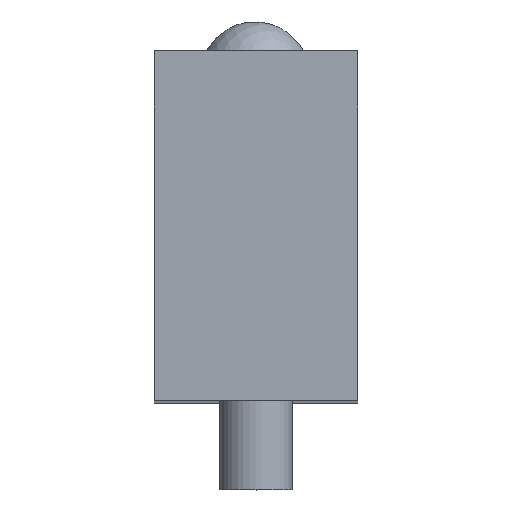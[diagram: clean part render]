
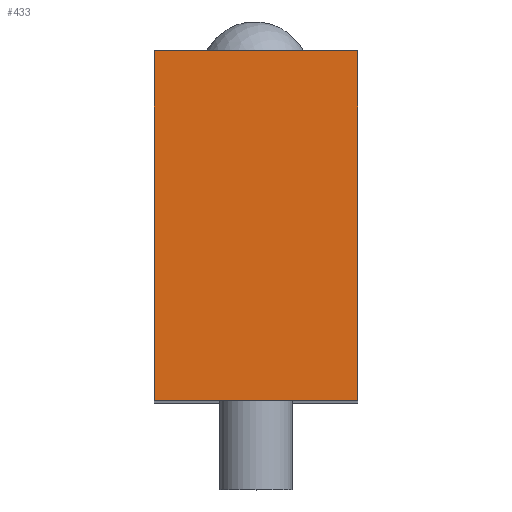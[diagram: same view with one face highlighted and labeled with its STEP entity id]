
A CAD part, top view. The second image highlights one B-rep face of the part: STEP entity #433.
In plain terms, the highlighted planar face has unit normal (0, 0, 1).
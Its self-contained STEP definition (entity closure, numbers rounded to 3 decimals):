
#30=LINE('',#721,#50);
#34=LINE('',#734,#54);
#41=LINE('',#755,#61);
#42=LINE('',#757,#62);
#50=VECTOR('',#603,10.);
#54=VECTOR('',#613,10.);
#61=VECTOR('',#638,10.);
#62=VECTOR('',#641,10.);
#108=FACE_OUTER_BOUND('',#146,.T.);
#146=EDGE_LOOP('',(#361,#362,#363,#364));
#202=VERTEX_POINT('',#718);
#203=VERTEX_POINT('',#720);
#208=VERTEX_POINT('',#731);
#209=VERTEX_POINT('',#733);
#246=EDGE_CURVE('',#203,#202,#30,.T.);
#252=EDGE_CURVE('',#209,#208,#34,.T.);
#263=EDGE_CURVE('',#202,#209,#41,.T.);
#264=EDGE_CURVE('',#208,#203,#42,.T.);
#361=ORIENTED_EDGE('',*,*,#252,.T.);
#362=ORIENTED_EDGE('',*,*,#264,.T.);
#363=ORIENTED_EDGE('',*,*,#246,.T.);
#364=ORIENTED_EDGE('',*,*,#263,.T.);
#378=PLANE('',#509);
#433=ADVANCED_FACE('',(#108),#378,.T.);
#509=AXIS2_PLACEMENT_3D('',#758,#642,#643);
#603=DIRECTION('',(-1.,0.,0.));
#613=DIRECTION('',(1.,0.,0.));
#638=DIRECTION('',(0.,-1.,0.));
#641=DIRECTION('',(0.,1.,0.));
#642=DIRECTION('center_axis',(0.,0.,1.));
#643=DIRECTION('ref_axis',(1.,0.,0.));
#718=CARTESIAN_POINT('',(-13.9,47.8,55.));
#720=CARTESIAN_POINT('',(13.9,47.8,55.));
#721=CARTESIAN_POINT('',(13.9,47.8,55.));
#731=CARTESIAN_POINT('',(13.9,0.,55.));
#733=CARTESIAN_POINT('',(-13.9,0.,55.));
#734=CARTESIAN_POINT('',(-13.9,0.,55.));
#755=CARTESIAN_POINT('',(-13.9,47.8,55.));
#757=CARTESIAN_POINT('',(13.9,0.,55.));
#758=CARTESIAN_POINT('Origin',(0.,23.9,55.));
